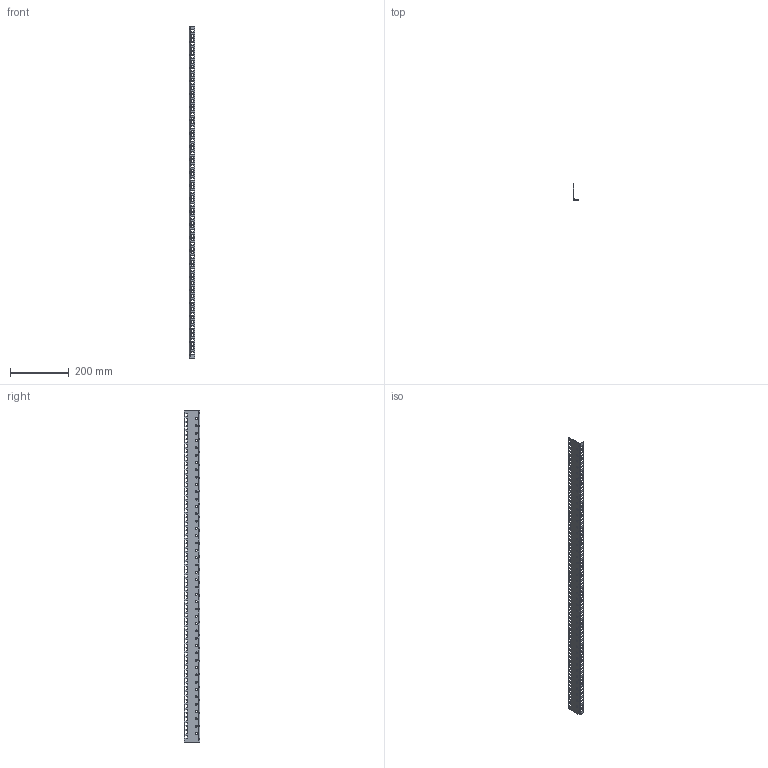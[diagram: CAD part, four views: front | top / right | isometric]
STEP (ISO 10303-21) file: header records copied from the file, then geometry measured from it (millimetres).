
FILE_DESCRIPTION (( 'STEP AP214' ), '1' );
FILE_NAME ('MG 120 IT Ðåéêà âåðòèêàëüíàÿ 19''''.STEP', '2020-09-23T09:48:14', ( '' ), ( '' ), 'SwSTEP 2.0', 'SolidWorks 2018', '' );
FILE_SCHEMA (( 'AUTOMOTIVE_DESIGN' ));
Length unit declared in the file: millimetre
Products named in the file (1): MG 120 IT Ðåéêà âåðòèêàëüíàÿ 19''''
Bounding box: 18.5 x 54.5 x 1133 mm (x, y, z)
Volume: 127851.2 mm3; surface area: 146162.1 mm2
Topology: 1 solids, 1 shells, 1458 faces, 4308 edges, 2800 vertices
Faces by surface type: cylinder 794, plane 612, bspline 52
Entity records: 52738 total; most frequent: CARTESIAN_POINT 12155, ORIENTED_EDGE 8616, DIRECTION 8398, EDGE_CURVE 4308, AXIS2_PLACEMENT_3D 2891, VERTEX_POINT 2800, VECTOR 2616, LINE 2616
